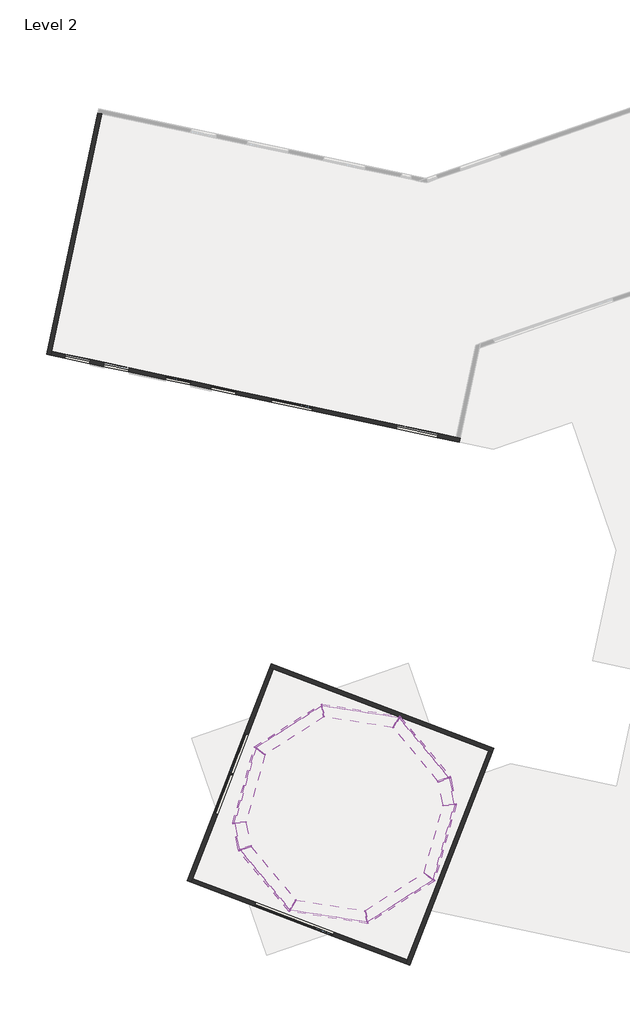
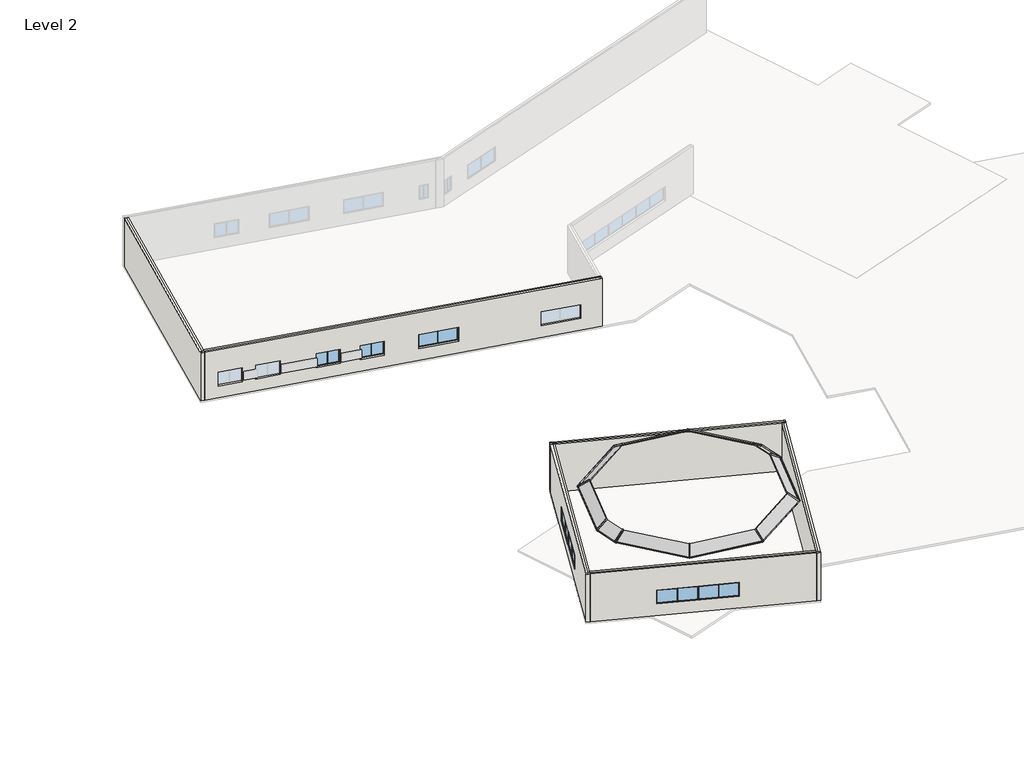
# One storey, part 1 of 2: 22 members, 10 plates, 7 windows, 6 walls.
"""IFC4 building model written with IfcOpenShell, lengths in millimetres."""

from ifc_helpers import new_model, si_unit, origin, place, context, project, spatial, faceted_brep, transform, mapped, element, save
from components import rectangular_mullion_50_x_150mm_e5e11441, rectangular_mullion_50_x_150mm_501e4033, rectangular_mullion_50_x_150mm_35afcab1, rectangular_mullion_50_x_150mm_78fac041, rectangular_mullion_50_x_150mm_afde21c2, rectangular_mullion_50_x_150mm_a70bddc8, system_panel_glazed_74456a48, system_panel_glazed_ca78b364, system_panel_glazed_3d384c18, aluminum_exterior_window_2_wide_3886_1d34d12d, aluminum_exterior_window_2_wide_3886_5f28be50

model = new_model("IFC4")

# Units and contexts
model_context = context("Model", 3, world=origin())
ifc_project = project(units=[si_unit("LENGTHUNIT", "METRE", prefix="MILLI")], contexts=[model_context])

# Site, building, storey
site = spatial("IfcSite", under=ifc_project)
building = spatial("IfcBuilding", under=site)
storey = spatial("IfcBuildingStorey", under=building, Name="Level 2", Elevation=4050.0)

# Members
placement = place(None, origin())
rectangular_mullion_50_x_150mm_shape = rectangular_mullion_50_x_150mm_e5e11441(model_context)
element("IfcMember", 1, ObjectType="Rectangular Mullion : 50 x 150mm", at=placement, inside=storey, context=model_context, shape_type="MappedRepresentation", body=[
    mapped(rectangular_mullion_50_x_150mm_shape, transform((474527.8458547, -12884.8542237, 8400.0), x_axis=(0.7882629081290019, 0.1667905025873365, -0.5923027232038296), y_axis=(-0.5794728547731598, -0.12261209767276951, -0.8057155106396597), z_axis=(-0.20700917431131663, 0.9783390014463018, 0.0))),
])
element("IfcMember", 2, ObjectType="Rectangular Mullion : 50 x 150mm", at=placement, inside=storey, context=model_context, shape_type="MappedRepresentation", body=[
    mapped(rectangular_mullion_50_x_150mm_shape, transform((459380.0556199, -18011.7428051, 8400.0), x_axis=(-0.7882629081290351, -0.16679050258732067, -0.59230272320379), y_axis=(0.5794728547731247, 0.1226120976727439, -0.8057155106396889), z_axis=(0.2070091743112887, -0.9783390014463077, 0.0))),
])
rectangular_mullion_50_x_150mm_2_shape = rectangular_mullion_50_x_150mm_501e4033(model_context)
element("IfcMember", 3, ObjectType="Rectangular Mullion : 50 x 150mm", at=placement, inside=storey, context=model_context, shape_type="MappedRepresentation", body=[
    mapped(rectangular_mullion_50_x_150mm_2_shape, transform((459390.4060787, -18060.6597552, 8400.0), x_axis=(-0.4398650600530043, 0.880686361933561, 0.17581314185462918), y_axis=(0.47265035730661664, 0.39348346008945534, -0.7885254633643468), z_axis=(-0.7636231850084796, -0.26374665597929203, -0.589336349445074))),
])
rectangular_mullion_50_x_150mm_3_shape = rectangular_mullion_50_x_150mm_35afcab1(model_context)
element("IfcMember", 4, ObjectType="Rectangular Mullion : 50 x 150mm", at=placement, inside=storey, context=model_context, shape_type="MappedRepresentation", body=[
    mapped(rectangular_mullion_50_x_150mm_3_shape, transform((462997.6823243, -22393.7018759, 8400.0), x_axis=(-0.6060090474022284, -0.5045051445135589, -0.615002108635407), y_axis=(0.4726503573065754, 0.39348346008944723, -0.7885254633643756), z_axis=(0.6398083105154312, -0.7685345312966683, 0.0))),
])
element("IfcMember", 5, ObjectType="Rectangular Mullion : 50 x 150mm", at=placement, inside=storey, context=model_context, shape_type="MappedRepresentation", body=[
    mapped(rectangular_mullion_50_x_150mm_3_shape, transform((470910.2191504, -8502.8951529, 8400.0), x_axis=(0.6060090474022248, 0.5045051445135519, -0.6150021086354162), y_axis=(-0.47265035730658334, -0.39348346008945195, -0.7885254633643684), z_axis=(-0.6398083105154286, 0.7685345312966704, 0.0))),
])
rectangular_mullion_50_x_150mm_4_shape = rectangular_mullion_50_x_150mm_78fac041(model_context)
element("IfcMember", 6, ObjectType="Rectangular Mullion : 50 x 150mm", at=placement, inside=storey, context=model_context, shape_type="MappedRepresentation", body=[
    mapped(rectangular_mullion_50_x_150mm_4_shape, transform((468585.7261245, -23273.1305698, 8400.0), x_axis=(-0.12030768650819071, -0.7792935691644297, -0.6150021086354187), y_axis=(0.09383270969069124, 0.607801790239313, -0.7885254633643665), z_axis=(0.9882922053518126, -0.15257298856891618, 0.0))),
])
element("IfcMember", 7, ObjectType="Rectangular Mullion : 50 x 150mm", at=placement, inside=storey, context=model_context, shape_type="MappedRepresentation", body=[
    mapped(rectangular_mullion_50_x_150mm_4_shape, transform((473356.495798, -20233.4948903, 8400.0), x_axis=(0.4256497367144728, -0.6637730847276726, -0.6150021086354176), y_axis=(-0.33198101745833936, 0.5177028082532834, -0.7885254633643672), z_axis=(0.8417902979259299, 0.5398046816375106, 0.0))),
])
element("IfcMember", 8, ObjectType="Rectangular Mullion : 50 x 150mm", at=placement, inside=storey, context=model_context, shape_type="MappedRepresentation", body=[
    mapped(rectangular_mullion_50_x_150mm_4_shape, transform((474920.5530374, -14797.1952947, 8400.0), x_axis=(0.7584206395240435, -0.21580208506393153, -0.61500210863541), y_axis=(-0.5915221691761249, 0.1683125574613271, -0.7885254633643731), z_axis=(0.2736780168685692, 0.961821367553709, 0.0))),
])
element("IfcMember", 9, ObjectType="Rectangular Mullion : 50 x 150mm", at=placement, inside=storey, context=model_context, shape_type="MappedRepresentation", body=[
    mapped(rectangular_mullion_50_x_150mm_4_shape, transform((465322.1753501, -7623.4664589, 8400.0), x_axis=(0.12030768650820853, 0.7792935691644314, -0.615002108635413), y_axis=(-0.09383270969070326, -0.6078017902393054, -0.7885254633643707), z_axis=(-0.9882922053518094, 0.15257298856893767, 0.0))),
])
element("IfcMember", 10, ObjectType="Rectangular Mullion : 50 x 150mm", at=placement, inside=storey, context=model_context, shape_type="MappedRepresentation", body=[
    mapped(rectangular_mullion_50_x_150mm_4_shape, transform((460551.4056766, -10663.1021384, 8400.0), x_axis=(-0.4256497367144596, 0.6637730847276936, -0.615002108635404), y_axis=(0.33198101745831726, -0.5177028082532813, -0.7885254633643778), z_axis=(-0.8417902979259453, -0.5398046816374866, 0.0))),
])
element("IfcMember", 11, ObjectType="Rectangular Mullion : 50 x 150mm", at=placement, inside=storey, context=model_context, shape_type="MappedRepresentation", body=[
    mapped(rectangular_mullion_50_x_150mm_4_shape, transform((458987.3484372, -16099.401734, 8400.0), x_axis=(-0.7584206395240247, 0.21580208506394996, -0.6150021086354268), y_axis=(0.5915221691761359, -0.1683125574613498, -0.7885254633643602), z_axis=(-0.2736780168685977, -0.961821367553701, 0.0))),
])
rectangular_mullion_50_x_150mm_5_shape = rectangular_mullion_50_x_150mm_afde21c2(model_context)
element("IfcMember", 12, ObjectType="Rectangular Mullion : 50 x 150mm", at=placement, inside=storey, context=model_context, shape_type="MappedRepresentation", body=[
    mapped(rectangular_mullion_50_x_150mm_5_shape, transform((473681.1502314, -13124.801264, 9045.4605044), x_axis=(-0.2847645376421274, 0.9567674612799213, 0.059204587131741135), y_axis=(-0.5794728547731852, -0.12261209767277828, -0.8057155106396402), z_axis=(-0.7636231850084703, -0.2637466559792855, 0.5893363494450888))),
])
element("IfcMember", 13, ObjectType="Rectangular Mullion : 50 x 150mm", at=placement, inside=storey, context=model_context, shape_type="MappedRepresentation", body=[
    mapped(rectangular_mullion_50_x_150mm_5_shape, transform((460226.7512433, -17771.7957647, 9045.4605044), x_axis=(0.284764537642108, -0.9567674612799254, 0.059204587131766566), y_axis=(0.5794728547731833, 0.12261209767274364, -0.8057155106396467), z_axis=(0.7636231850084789, 0.26374665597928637, 0.5893363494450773))),
])
rectangular_mullion_50_x_150mm_6_shape = rectangular_mullion_50_x_150mm_a70bddc8(model_context)
element("IfcMember", 14, ObjectType="Rectangular Mullion : 50 x 150mm", at=placement, inside=storey, context=model_context, shape_type="MappedRepresentation", body=[
    mapped(rectangular_mullion_50_x_150mm_6_shape, transform((463449.3764789, -21642.7970229, 9045.4605044), x_axis=(0.8703619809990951, -0.4924124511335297, 0.0), y_axis=(0.29019655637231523, 0.5129359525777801, -0.8078877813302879), z_axis=(0.3978140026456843, 0.7031548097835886, 0.5893363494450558))),
])
element("IfcMember", 15, ObjectType="Rectangular Mullion : 50 x 150mm", at=placement, inside=storey, context=model_context, shape_type="MappedRepresentation", body=[
    mapped(rectangular_mullion_50_x_150mm_6_shape, transform((468427.266495, -22411.2858893, 9045.4605044), x_axis=(0.9783390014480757, 0.2070091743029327, 0.0), y_axis=(-0.12199803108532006, 0.576570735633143, -0.8078877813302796), z_axis=(-0.16724018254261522, 0.7903881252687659, 0.5893363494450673))),
])
element("IfcMember", 16, ObjectType="Rectangular Mullion : 50 x 150mm", at=placement, inside=storey, context=model_context, shape_type="MappedRepresentation", body=[
    mapped(rectangular_mullion_50_x_150mm_6_shape, transform((472667.2468339, -19692.3649863, 9045.4605044), x_axis=(0.596315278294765, 0.8027503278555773, 0.0), y_axis=(-0.4730899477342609, 0.3514302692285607, -0.8078877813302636), z_axis=(-0.6485321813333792, 0.48175582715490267, 0.5893363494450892))),
])
element("IfcMember", 17, ObjectType="Rectangular Mullion : 50 x 150mm", at=placement, inside=storey, context=model_context, shape_type="MappedRepresentation", body=[
    mapped(rectangular_mullion_50_x_150mm_6_shape, transform((474045.7248391, -14847.8048887, 9045.4605044), x_axis=(-0.0843727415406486, 0.996434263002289, 0.0), y_axis=(-0.5872349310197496, -0.049723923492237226, -0.8078877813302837), z_axis=(-0.8050070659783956, -0.0681637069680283, 0.5893363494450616))),
])
element("IfcMember", 18, ObjectType="Rectangular Mullion : 50 x 150mm", at=placement, inside=storey, context=model_context, shape_type="MappedRepresentation", body=[
    mapped(rectangular_mullion_50_x_150mm_6_shape, transform((470458.5249958, -9253.8000059, 9045.4605044), x_axis=(-0.8703619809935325, 0.4924124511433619, 0.0), y_axis=(-0.2901965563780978, -0.5129359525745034, -0.8078877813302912), z_axis=(-0.3978140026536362, -0.7031548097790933, 0.5893363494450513))),
])
element("IfcMember", 19, ObjectType="Rectangular Mullion : 50 x 150mm", at=placement, inside=storey, context=model_context, shape_type="MappedRepresentation", body=[
    mapped(rectangular_mullion_50_x_150mm_6_shape, transform((465480.6349797, -8485.3111394, 9045.4605044), x_axis=(-0.978339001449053, -0.20700917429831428, 0.0), y_axis=(0.12199803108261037, -0.5765707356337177, -0.8078877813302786), z_axis=(0.16724018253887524, -0.7903881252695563, 0.5893363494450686))),
])
element("IfcMember", 20, ObjectType="Rectangular Mullion : 50 x 150mm", at=placement, inside=storey, context=model_context, shape_type="MappedRepresentation", body=[
    mapped(rectangular_mullion_50_x_150mm_6_shape, transform((461240.6546408, -11204.2320424, 9045.4605044), x_axis=(-0.5963152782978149, -0.8027503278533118, 0.0), y_axis=(0.4730899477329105, -0.35143026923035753, -0.8078877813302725), z_axis=(0.6485321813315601, -0.481755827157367, 0.5893363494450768))),
])
element("IfcMember", 21, ObjectType="Rectangular Mullion : 50 x 150mm", at=placement, inside=storey, context=model_context, shape_type="MappedRepresentation", body=[
    mapped(rectangular_mullion_50_x_150mm_6_shape, transform((459862.1766355, -16048.7921401, 9045.4605044), x_axis=(0.08437274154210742, -0.9964342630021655, 0.0), y_axis=(0.5872349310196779, 0.04972392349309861, -0.8078877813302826), z_axis=(0.8050070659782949, 0.06816370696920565, 0.589336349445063))),
])
element("IfcMember", 22, ObjectType="Rectangular Mullion : 50 x 150mm", at=placement, inside=storey, context=model_context, shape_type="MappedRepresentation", body=[
    mapped(rectangular_mullion_50_x_150mm_2_shape, transform((474517.495396, -12835.9372736, 8400.0), x_axis=(0.4398650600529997, -0.8806863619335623, 0.17581314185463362), y_axis=(-0.47265035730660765, -0.393483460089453, -0.7885254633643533), z_axis=(0.7636231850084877, 0.26374665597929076, -0.589336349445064))),
])

# Plates
system_panel_glazed_shape = system_panel_glazed_74456a48(model_context)
element("IfcPlate", 23, ObjectType="System Panel : Glazed", at=placement, inside=storey, context=model_context, shape_type="MappedRepresentation", body=[
    mapped(system_panel_glazed_shape, transform((461831.2595366, -19729.9340777, 9030.0854517), x_axis=(0.6398083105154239, -0.7685345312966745, 0.0), y_axis=(-0.4726503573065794, -0.39348346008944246, 0.7885254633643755), z_axis=(-0.606009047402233, -0.5045051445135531, -0.6150021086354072))),
])
element("IfcPlate", 24, ObjectType="System Panel : Glazed", at=placement, inside=storey, context=model_context, shape_type="MappedRepresentation", body=[
    mapped(system_panel_glazed_shape, transform((472076.641938, -11166.6629511, 9030.0854517), x_axis=(-0.6398083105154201, 0.7685345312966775, 0.0), y_axis=(0.47265035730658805, 0.39348346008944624, 0.7885254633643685), z_axis=(0.6060090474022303, 0.5045051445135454, -0.615002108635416))),
])
system_panel_glazed_2_shape = system_panel_glazed_ca78b364(model_context)
element("IfcPlate", 25, ObjectType="System Panel : Glazed", at=placement, inside=storey, context=model_context, shape_type="MappedRepresentation", body=[
    mapped(system_panel_glazed_2_shape, transform((465935.3137948, -22046.5237954, 9030.0854517), x_axis=(0.9882922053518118, -0.15257298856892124, 0.0), y_axis=(-0.09383270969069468, -0.6078017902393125, 0.7885254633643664), z_axis=(-0.1203076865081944, -0.779293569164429, -0.6150021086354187))),
])
element("IfcPlate", 26, ObjectType="System Panel : Glazed", at=placement, inside=storey, context=model_context, shape_type="MappedRepresentation", body=[
    mapped(system_panel_glazed_2_shape, transform((470557.8979079, -21068.4197649, 9030.0854517), x_axis=(0.8417902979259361, 0.5398046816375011, 0.0), y_axis=(0.3319810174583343, -0.5177028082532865, 0.7885254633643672), z_axis=(0.42564973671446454, -0.6637730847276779, -0.6150021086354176))),
])
element("IfcPlate", 27, ObjectType="System Panel : Glazed", at=placement, inside=storey, context=model_context, shape_type="MappedRepresentation", body=[
    mapped(system_panel_glazed_2_shape, transform((473375.4463525, -17275.4799896, 9030.0854517), x_axis=(0.273678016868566, 0.9618213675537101, 0.0), y_axis=(0.5915221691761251, -0.1683125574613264, 0.7885254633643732), z_axis=(0.7584206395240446, -0.215802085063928, -0.61500210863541))),
])
element("IfcPlate", 28, ObjectType="System Panel : Glazed", at=placement, inside=storey, context=model_context, shape_type="MappedRepresentation", body=[
    mapped(system_panel_glazed_2_shape, transform((467972.5876798, -8850.0732334, 9030.0854517), x_axis=(-0.9882922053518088, 0.15257298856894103, 0.0), y_axis=(0.09383270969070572, 0.607801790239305, 0.7885254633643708), z_axis=(0.1203076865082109, 0.7792935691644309, -0.615002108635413))),
])
element("IfcPlate", 29, ObjectType="System Panel : Glazed", at=placement, inside=storey, context=model_context, shape_type="MappedRepresentation", body=[
    mapped(system_panel_glazed_2_shape, transform((463350.0035668, -9828.1772639, 9030.0854517), x_axis=(-0.8417902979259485, -0.5398046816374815, 0.0), y_axis=(-0.3319810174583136, 0.5177028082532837, 0.7885254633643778), z_axis=(-0.42564973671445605, 0.6637730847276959, -0.6150021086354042))),
])
element("IfcPlate", 30, ObjectType="System Panel : Glazed", at=placement, inside=storey, context=model_context, shape_type="MappedRepresentation", body=[
    mapped(system_panel_glazed_2_shape, transform((460532.4551222, -13621.1170391, 9030.0854517), x_axis=(-0.2736780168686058, -0.9618213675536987, 0.0), y_axis=(-0.591522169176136, 0.16831255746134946, 0.7885254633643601), z_axis=(-0.7584206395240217, 0.21580208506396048, -0.6150021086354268))),
])
system_panel_glazed_3_shape = system_panel_glazed_3d384c18(model_context)
element("IfcPlate", 31, ObjectType="System Panel : Glazed", at=placement, inside=storey, context=model_context, shape_type="MappedRepresentation", body=[
    mapped(system_panel_glazed_3_shape, transform((473885.7447472, -13994.4241061, 9030.6529363), x_axis=(-0.20700917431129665, 0.978339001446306, 0.0), y_axis=(0.5794728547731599, 0.12261209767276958, 0.8057155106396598), z_axis=(0.7882629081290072, 0.16679050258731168, -0.5923027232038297))),
])
element("IfcPlate", 32, ObjectType="System Panel : Glazed", at=placement, inside=storey, context=model_context, shape_type="MappedRepresentation", body=[
    mapped(system_panel_glazed_3_shape, transform((460022.1567275, -16902.1729226, 9030.6529363), x_axis=(0.20700917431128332, -0.9783390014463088, 0.0), y_axis=(-0.5794728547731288, -0.12261209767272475, 0.8057155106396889), z_axis=(-0.7882629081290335, -0.16679050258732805, -0.5923027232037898))),
])

# Walls
element("IfcWall", 33, ObjectType="0.3", at=placement, inside=storey, context=model_context, shape_type="Brep", body=[
    faceted_brep([(445876.5607005, 17434.927637, 4050.0), (445938.9342078, 17728.3719172, 4050.0), (449557.1098582, 34750.5500237, 4050.0), (449557.1098582, 34750.5500237, 8250.0), (445938.9342078, 17728.3719172, 8250.0), (445907.7474541, 17581.6497771, 8250.0), (445876.5607005, 17434.927637, 8250.0), (445583.1164203, 17497.3011443, 4050.0), (445583.1164203, 17497.3011443, 8250.0), (445614.3031739, 17644.0232844, 8250.0), (449263.665578, 34812.923531, 8250.0), (449263.665578, 34812.923531, 4050.0), (445729.8385604, 17466.1143906, 8250.0), (449410.3877181, 34781.7367774, 8250.0), (445761.025314, 17612.8365308, 8250.0)], [[[0, 1, 2, 3, 4, 5, 6]], [[7, 8, 9, 10, 11]], [[2, 1, 0, 7, 11]], [[0, 6, 12, 8, 7]], [[3, 2, 11, 10, 13]], [[13, 10, 9, 14]], [[6, 5, 14, 12]], [[14, 9, 8, 12]], [[5, 4, 3, 13, 14]]]),
])
element("IfcWall", 34, ObjectType="0.3", at=placement, inside=storey, context=model_context, shape_type="Brep", body=[
    faceted_brep([(475243.5442016, 11499.4847759, 4050.0), (474950.0999214, 11561.8582831, 4050.0), (445938.9342078, 17728.3719172, 4050.0), (445938.9342078, 17728.3719172, 8250.0), (474950.0999214, 11561.8582831, 8250.0), (475096.8220615, 11530.6715295, 8250.0), (475243.5442016, 11499.4847759, 8250.0), (464679.5501137, 13744.9310367, 6285.2), (461745.1073115, 14368.6661092, 6285.2), (461745.1073115, 14368.6661092, 5066.0), (464679.5501137, 13744.9310367, 5066.0), (473678.5080404, 11832.1434812, 6285.2), (470744.0652382, 12455.8785536, 6285.2), (470744.0652382, 12455.8785536, 5066.0), (473678.5080404, 11832.1434812, 5066.0), (459201.9235496, 14909.2365053, 6285.2), (457413.0872174, 15289.4654054, 6285.2), (457413.0872174, 15289.4654054, 5066.0), (459201.9235496, 14909.2365053, 5066.0), (455945.8658163, 15601.3329417, 6285.2), (454157.029484, 15981.5618418, 6285.2), (454157.029484, 15981.5618418, 5066.0), (455945.8658163, 15601.3329417, 5066.0), (451516.0309621, 16542.923407, 6285.2), (449727.1946298, 16923.1523072, 6285.2), (449727.1946298, 16923.1523072, 5066.0), (451516.0309621, 16542.923407, 5066.0), (448727.4825849, 17135.6476621, 6285.2), (446938.6462527, 17515.8765623, 6285.2), (446938.6462527, 17515.8765623, 5066.0), (448727.4825849, 17135.6476621, 5066.0), (475181.1706944, 11206.0404956, 4050.0), (475181.1706944, 11206.0404956, 8250.0), (475034.4485543, 11237.2272493, 8250.0), (445876.5607005, 17434.927637, 8250.0), (445876.5607005, 17434.927637, 4050.0), (464617.1766064, 13451.4867565, 6285.2), (464617.1766064, 13451.4867565, 5066.0), (461682.7338042, 14075.2218289, 5066.0), (461682.7338042, 14075.2218289, 6285.2), (473616.1345332, 11538.699201, 6285.2), (473616.1345332, 11538.699201, 5066.0), (470681.691731, 12162.4342734, 5066.0), (470681.691731, 12162.4342734, 6285.2), (459139.5500423, 14615.7922251, 6285.2), (459139.5500423, 14615.7922251, 5066.0), (457350.7137101, 14996.0211252, 5066.0), (457350.7137101, 14996.0211252, 6285.2), (455883.492309, 15307.8886615, 6285.2), (455883.492309, 15307.8886615, 5066.0), (454094.6559768, 15688.1175616, 5066.0), (454094.6559768, 15688.1175616, 6285.2), (451453.6574548, 16249.4791268, 6285.2), (451453.6574548, 16249.4791268, 5066.0), (449664.8211226, 16629.708027, 5066.0), (449664.8211226, 16629.708027, 6285.2), (448665.1090777, 16842.2033819, 6285.2), (448665.1090777, 16842.2033819, 5066.0), (446876.2727454, 17222.4322821, 5066.0), (446876.2727454, 17222.4322821, 6285.2), (475212.357448, 11352.7626358, 8250.0), (445907.7474541, 17581.6497771, 8250.0), (475065.6353079, 11383.9493894, 8250.0)], [[[0, 1, 2, 3, 4, 5, 6], [7, 8, 9, 10], [11, 12, 13, 14], [15, 16, 17, 18], [19, 20, 21, 22], [23, 24, 25, 26], [27, 28, 29, 30]], [[31, 32, 33, 34, 35], [36, 37, 38, 39], [40, 41, 42, 43], [44, 45, 46, 47], [48, 49, 50, 51], [52, 53, 54, 55], [56, 57, 58, 59]], [[2, 1, 0, 31, 35]], [[0, 6, 60, 32, 31]], [[3, 2, 35, 34, 61]], [[61, 34, 33, 62]], [[6, 5, 62, 60]], [[62, 33, 32, 60]], [[5, 4, 3, 61, 62]], [[37, 36, 7, 10]], [[38, 37, 10, 9]], [[39, 38, 9, 8]], [[36, 39, 8, 7]], [[41, 40, 11, 14]], [[42, 41, 14, 13]], [[43, 42, 13, 12]], [[40, 43, 12, 11]], [[45, 44, 15, 18]], [[46, 45, 18, 17]], [[47, 46, 17, 16]], [[44, 47, 16, 15]], [[49, 48, 19, 22]], [[50, 49, 22, 21]], [[51, 50, 21, 20]], [[48, 51, 20, 19]], [[53, 52, 23, 26]], [[54, 53, 26, 25]], [[55, 54, 25, 24]], [[52, 55, 24, 23]], [[57, 56, 27, 30]], [[58, 57, 30, 29]], [[59, 58, 29, 28]], [[56, 59, 28, 27]]]),
])
element("IfcWall", 35, ObjectType="0.3", at=placement, inside=storey, context=model_context, shape_type="Brep", body=[
    faceted_brep([(461579.7366465, -4960.0634691, 4050.0), (461860.2102565, -5066.5384324, 4050.0), (477283.3475409, -10921.5562195, 4050.0), (477563.8270863, -11028.033436, 4050.0), (477563.8270863, -11028.033436, 8250.0), (477423.5873136, -10974.7948278, 8250.0), (477283.3475409, -10921.5562195, 8250.0), (461860.2102565, -5066.5384324, 8250.0), (461719.9734515, -5013.3009507, 8250.0), (461579.7366465, -4960.0634691, 8250.0), (461687.6475622, -4680.1391973, 4050.0), (461687.6475622, -4680.1391973, 8250.0), (461827.8843673, -4733.3766789, 8250.0), (477532.3836851, -10695.2066976, 8250.0), (477672.6234578, -10748.4453058, 8250.0), (477672.6234578, -10748.4453058, 4050.0), (477618.2252721, -10888.2393709, 8250.0), (461633.6921043, -4820.1013332, 8250.0), (461773.9289094, -4873.3388148, 8250.0), (477477.9854994, -10835.0007627, 8250.0)], [[[0, 1, 2, 3, 4, 5, 6, 7, 8, 9]], [[10, 11, 12, 13, 14, 15]], [[3, 2, 1, 0, 10, 15]], [[4, 3, 15, 14, 16]], [[0, 9, 17, 11, 10]], [[9, 8, 18, 17]], [[18, 12, 11, 17]], [[5, 4, 16, 19]], [[13, 12, 18, 19]], [[16, 14, 13, 19]], [[8, 7, 6, 5, 19, 18]]]),
])
element("IfcWall", 36, ObjectType="0.3", at=placement, inside=storey, context=model_context, shape_type="Brep", body=[
    faceted_brep([(477283.3475409, -10921.5562195, 4050.0), (471444.6912605, -25925.9076472, 4050.0), (471335.8948889, -26205.4957774, 4050.0), (471335.8948889, -26205.4957774, 8250.0), (471390.2930747, -26065.7017123, 8250.0), (471444.6912605, -25925.9076472, 8250.0), (477283.3475409, -10921.5562195, 8250.0), (477563.8270863, -11028.033436, 4050.0), (477563.8270863, -11028.033436, 8250.0), (471670.7726201, -26172.1789288, 8250.0), (471616.3744343, -26311.9729939, 8250.0), (471616.3744343, -26311.9729939, 4050.0), (477423.5873136, -10974.7948278, 8250.0), (471476.1346616, -26258.7343856, 8250.0), (471530.5328474, -26118.9403205, 8250.0)], [[[0, 1, 2, 3, 4, 5, 6]], [[7, 8, 9, 10, 11]], [[2, 1, 0, 7, 11]], [[0, 6, 12, 8, 7]], [[3, 2, 11, 10, 13]], [[14, 9, 8, 12]], [[4, 3, 13, 14]], [[13, 10, 9, 14]], [[6, 5, 4, 14, 12]]]),
])
element("IfcWall", 37, ObjectType="0.3", at=placement, inside=storey, context=model_context, shape_type="Brep", body=[
    faceted_brep([(455961.1618476, -20368.8534802, 4050.0), (456069.0727634, -20088.9292084, 4050.0), (461860.2102565, -5066.5384324, 4050.0), (461860.2102565, -5066.5384324, 8250.0), (456069.0727634, -20088.9292084, 8250.0), (456015.1173055, -20228.8913443, 8250.0), (455961.1618476, -20368.8534802, 8250.0), (460045.5109071, -9773.9249865, 6285.2), (460045.5109071, -9773.9249865, 5066.0), (458966.4159195, -12573.1309467, 5066.0), (458966.4159195, -12573.1309467, 6285.2), (458930.4460866, -12666.4378121, 6285.2), (458930.4460866, -12666.4378121, 5066.0), (457851.3510991, -15465.6437723, 5066.0), (457851.3510991, -15465.6437723, 6285.2), (455680.6882376, -20262.378517, 4050.0), (455680.6882376, -20262.378517, 8250.0), (455734.6436955, -20122.416381, 8250.0), (461579.7366465, -4960.0634691, 8250.0), (461579.7366465, -4960.0634691, 4050.0), (459765.590311, -9666.0154877, 6285.2), (458686.4953235, -12465.221448, 6285.2), (458686.4953235, -12465.221448, 5066.0), (459765.590311, -9666.0154877, 5066.0), (458650.5254906, -12558.5283133, 6285.2), (457571.4305031, -15357.7342735, 6285.2), (457571.4305031, -15357.7342735, 5066.0), (458650.5254906, -12558.5283133, 5066.0), (455820.9250426, -20315.6159986, 8250.0), (461719.9734515, -5013.3009507, 8250.0), (455874.8805005, -20175.6538627, 8250.0)], [[[0, 1, 2, 3, 4, 5, 6], [7, 8, 9, 10], [11, 12, 13, 14]], [[15, 16, 17, 18, 19], [20, 21, 22, 23], [24, 25, 26, 27]], [[2, 1, 0, 15, 19]], [[0, 6, 28, 16, 15]], [[3, 2, 19, 18, 29]], [[29, 18, 17, 30]], [[6, 5, 30, 28]], [[30, 17, 16, 28]], [[5, 4, 3, 29, 30]], [[8, 7, 20, 23]], [[9, 8, 23, 22]], [[10, 9, 22, 21]], [[7, 10, 21, 20]], [[12, 11, 24, 27]], [[13, 12, 27, 26]], [[14, 13, 26, 25]], [[11, 14, 25, 24]]]),
])
element("IfcWall", 38, ObjectType="0.3", at=placement, inside=storey, context=model_context, shape_type="Brep", body=[
    faceted_brep([(471444.6912605, -25925.9076472, 4050.0), (456069.0727634, -20088.9292084, 4050.0), (456069.0727634, -20088.9292084, 8250.0), (471444.6912605, -25925.9076472, 8250.0), (460599.9490655, -21808.9658553, 5066.0), (466209.3476051, -23938.4371567, 5066.0), (466209.3476051, -23938.4371567, 6285.2), (460599.9490655, -21808.9658553, 6285.2), (455961.1618476, -20368.8534802, 4050.0), (471335.8948889, -26205.4957774, 4050.0), (471335.8948889, -26205.4957774, 8250.0), (455961.1618476, -20368.8534802, 8250.0), (466102.8740401, -24218.9070837, 5066.0), (460493.4755004, -22089.4357823, 5066.0), (460493.4755004, -22089.4357823, 6285.2), (466102.8740401, -24218.9070837, 6285.2), (471390.2930747, -26065.7017123, 8250.0), (456015.1173055, -20228.8913443, 8250.0)], [[[0, 1, 2, 3], [4, 5, 6, 7]], [[8, 9, 10, 11], [12, 13, 14, 15]], [[1, 0, 9, 8]], [[0, 3, 16, 10, 9]], [[2, 1, 8, 11, 17]], [[11, 10, 16, 17]], [[3, 2, 17, 16]], [[4, 13, 12, 5]], [[6, 5, 12, 15]], [[6, 15, 14, 7]], [[7, 14, 13, 4]]]),
])

# Windows
aluminum_exterior_window_2_wide_3886_shape = aluminum_exterior_window_2_wide_3886_1d34d12d(model_context)
element("IfcWindow", 39, ObjectType="Aluminum_Exterior_Window_-_2_Wide_3886 : 72\"W. x 48\"H. 2", at=placement, inside=storey, context=model_context, shape_type="MappedRepresentation", body=[
    mapped(aluminum_exterior_window_2_wide_3886_shape, transform((463050.0261872, 13910.7951149, 4050.0), x_axis=(0.9781476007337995, -0.20791169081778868, 0.0), y_axis=(0.20791169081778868, 0.9781476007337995, 0.0), z_axis=(0.0, 0.0, 1.0))),
])
element("IfcWindow", 40, ObjectType="Aluminum_Exterior_Window_-_2_Wide_3886 : 72\"W. x 48\"H. 2", at=placement, inside=storey, context=model_context, shape_type="MappedRepresentation", body=[
    mapped(aluminum_exterior_window_2_wide_3886_shape, transform((459344.5978436, -11248.9319295, 4050.0), x_axis=(0.35969832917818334, 0.9330686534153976, 0.0), y_axis=(-0.9330686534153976, 0.35969832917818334, 0.0), z_axis=(0.0, 0.0, 1.0))),
])
element("IfcWindow", 41, ObjectType="Aluminum_Exterior_Window_-_2_Wide_3886 : 72\"W. x 48\"H. 2", at=placement, inside=storey, context=model_context, shape_type="MappedRepresentation", body=[
    mapped(aluminum_exterior_window_2_wide_3886_shape, transform((458229.5330231, -14141.4447551, 4050.0), x_axis=(0.35969832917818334, 0.9330686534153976, 0.0), y_axis=(-0.9330686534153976, 0.35969832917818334, 0.0), z_axis=(0.0, 0.0, 1.0))),
])
element("IfcWindow", 42, ObjectType="Aluminum_Exterior_Window_-_2_Wide_3886 : 72\"W. x 48\"H. 2", at=placement, inside=storey, context=model_context, shape_type="MappedRepresentation", body=[
    mapped(aluminum_exterior_window_2_wide_3886_shape, transform((462078.5286277, -22502.3107067, 4050.0), x_axis=(-0.9348997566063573, 0.35491188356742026, 0.0), y_axis=(-0.35491188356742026, -0.9348997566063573, 0.0), z_axis=(0.0, 0.0, 1.0))),
])
element("IfcWindow", 43, ObjectType="Aluminum_Exterior_Window_-_2_Wide_3886 : 72\"W. x 48\"H. 2", at=placement, inside=storey, context=model_context, shape_type="MappedRepresentation", body=[
    mapped(aluminum_exterior_window_2_wide_3886_shape, transform((464883.2278975, -23567.0463574, 4050.0), x_axis=(-0.9348997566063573, 0.35491188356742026, 0.0), y_axis=(-0.35491188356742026, -0.9348997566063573, 0.0), z_axis=(0.0, 0.0, 1.0))),
])
aluminum_exterior_window_2_wide_3886_2_shape = aluminum_exterior_window_2_wide_3886_5f28be50(model_context)
element("IfcWindow", 44, ObjectType="Aluminum_Exterior_Window_-_2_Wide_3886 : 72\"W. x 48\"H.", at=placement, inside=storey, context=model_context, shape_type="MappedRepresentation", body=[
    mapped(aluminum_exterior_window_2_wide_3886_2_shape, transform((458718.0060931, 14831.5944112, 4050.0), x_axis=(0.9781476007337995, -0.20791169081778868, 0.0), y_axis=(0.20791169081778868, 0.9781476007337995, 0.0), z_axis=(0.0, 0.0, 1.0))),
])
element("IfcWindow", 45, ObjectType="Aluminum_Exterior_Window_-_2_Wide_3886 : 72\"W. x 48\"H.", at=placement, inside=storey, context=model_context, shape_type="MappedRepresentation", body=[
    mapped(aluminum_exterior_window_2_wide_3886_2_shape, transform((455461.9483597, 15523.6908476, 4050.0), x_axis=(0.9781476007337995, -0.20791169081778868, 0.0), y_axis=(0.20791169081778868, 0.9781476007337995, 0.0), z_axis=(0.0, 0.0, 1.0))),
])

save(model, "model.ifc")
